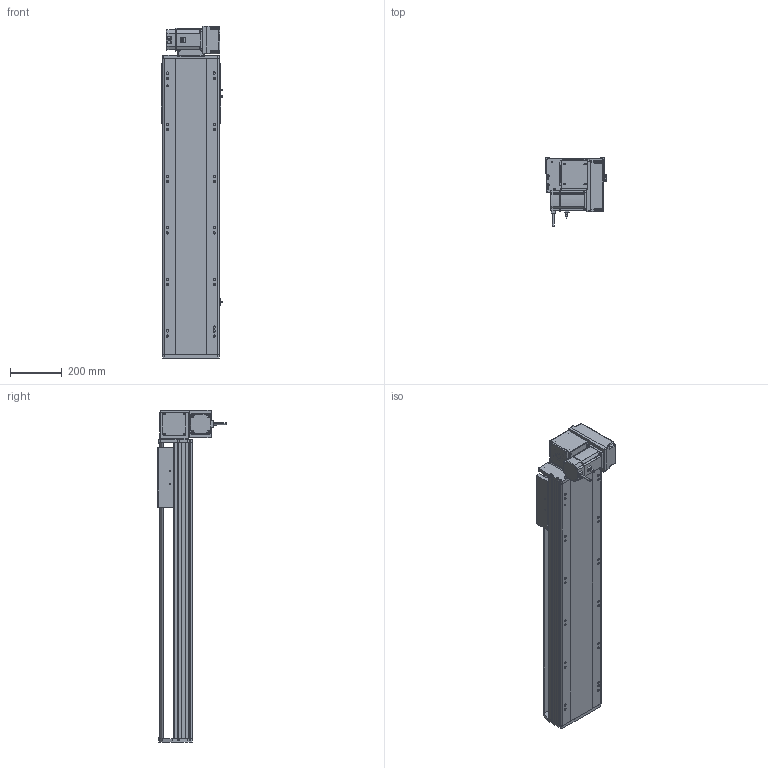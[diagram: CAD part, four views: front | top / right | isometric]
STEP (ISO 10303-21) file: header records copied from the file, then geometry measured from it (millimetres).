
FILE_DESCRIPTION (( 'STEP AP214' ), '1' );
FILE_NAME ('RTB22S-XX-800-RM-M75-C4.STEP', '2025-12-12T07:45:51', ( '' ), ( '' ), 'SwSTEP 2.0', 'SolidWorks 2018', '' );
FILE_SCHEMA (( 'AUTOMOTIVE_DESIGN' ));
Length unit declared in the file: millimetre
Products named in the file (14): RTB22S-GY-005P^RTB22S-RM-々湍釱蚾饜_RTB22S-XX-XX-RM-M75-C4; RTB22S-GY-014--々湍釱^RTB22S-RM-々湍釱蚾饜_RTB22S-XX-XX-RM-M75-C4; RTH22-GY-013外置感应片^RTB22S-XX-XX-RM-M75-C4; RTB22S-XX-800-RM-M75-C4; RTB22S-L-011菁釱^RTB22S-XX-XX-RM-M75-C4; RTB22S-GY-017P^RTB22S-RM-々湍釱蚾饜_RTB22S-XX-XX-RM-M75-C4; RTB22S-L-004賑釱^RTB22S-XX-XX-RM-M75-C4; RTB22S-GY-018P^RTB22S-RM-々湍釱蚾饜_RTB22S-XX-XX-RM-M75-C4; 750W萇儂^RTB22S-XX-XX-RM-M75-C4; RTB22S-GY-007奻裔^RTB22S-XX-XX-RM-M75-C4; RTB22S-GY-001耜裔^RTB22S-XX-XX-RM-M75-C4; RTB22S-RM-々湍釱蚾饜^RTB22S-XX-XX-RM-M75-C4; RTB22S-GY-008-M75--萇儂啣^RTB22S-RM-々湍釱蚾饜_RTB22S-XX-XX-RM-M75-C4; OMRON EE-SX672 传感器^RTB22S-XX-XX-RM-M75-C4
Assembly tree (16 placements, depth 3):
  RTB22S-XX-800-RM-M75-C4
    RTB22S-L-011菁釱^RTB22S-XX-XX-RM-M75-C4
    RTB22S-GY-001耜裔^RTB22S-XX-XX-RM-M75-C4
    750W萇儂^RTB22S-XX-XX-RM-M75-C4
    RTB22S-GY-007奻裔^RTB22S-XX-XX-RM-M75-C4
    RTB22S-L-004賑釱^RTB22S-XX-XX-RM-M75-C4
    RTH22-GY-013外置感应片^RTB22S-XX-XX-RM-M75-C4
    OMRON EE-SX672 传感器^RTB22S-XX-XX-RM-M75-C4  x3
    RTB22S-RM-々湍釱蚾饜^RTB22S-XX-XX-RM-M75-C4
      RTB22S-GY-014--々湍釱^RTB22S-RM-々湍釱蚾饜_RTB22S-XX-XX-RM-M75-C4
      RTB22S-GY-017P^RTB22S-RM-々湍釱蚾饜_RTB22S-XX-XX-RM-M75-C4  x2
      RTB22S-GY-005P^RTB22S-RM-々湍釱蚾饜_RTB22S-XX-XX-RM-M75-C4
      RTB22S-GY-008-M75--萇儂啣^RTB22S-RM-々湍釱蚾饜_RTB22S-XX-XX-RM-M75-C4
      RTB22S-GY-018P^RTB22S-RM-々湍釱蚾饜_RTB22S-XX-XX-RM-M75-C4
Bounding box: 238.5 x 264.7 x 1287.5 mm (x, y, z)
Volume: 18963144.8 mm3; surface area: 1982099 mm2
Topology: 15 solids, 15 shells, 1947 faces, 5286 edges, 3392 vertices
Faces by surface type: plane 911, cylinder 598, bspline 296, cone 130, sphere 8, torus 4
Entity records: 51452 total; most frequent: CARTESIAN_POINT 14876, ORIENTED_EDGE 7376, DIRECTION 7062, EDGE_CURVE 3688, AXIS2_PLACEMENT_3D 2478, VERTEX_POINT 2396, LINE 2106, VECTOR 2106
